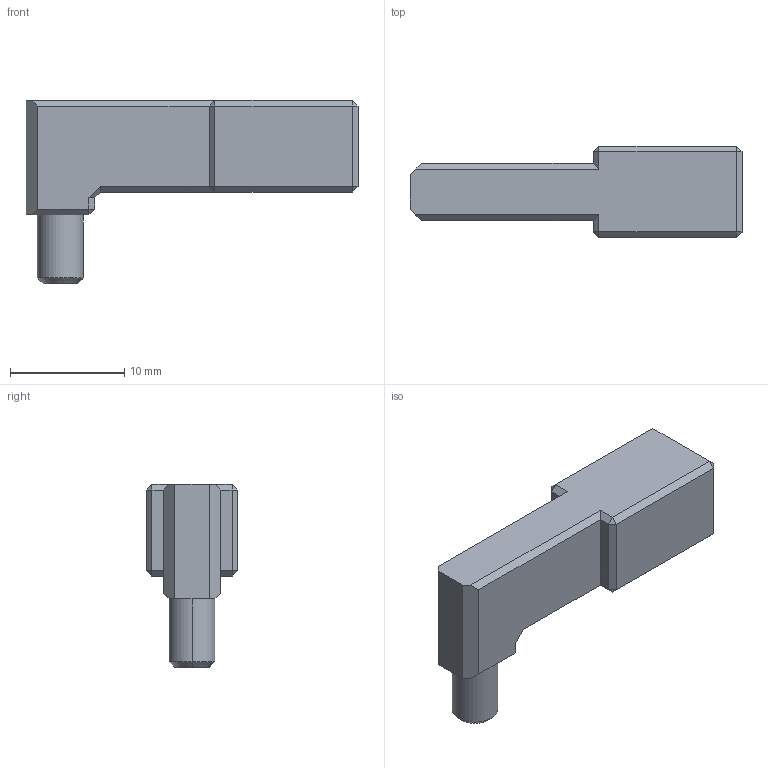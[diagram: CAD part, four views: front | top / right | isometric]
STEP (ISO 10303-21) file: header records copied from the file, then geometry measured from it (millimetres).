
FILE_DESCRIPTION (( 'STEP AP203' ), '1' );
FILE_NAME ('ºÞ¥Îªo¼LM4.STEP', '2009-12-08T00:57:53', ( 'cpc' ), ( '' ), 'SwSTEP 2.0', 'SolidWorks 2007', '' );
FILE_SCHEMA (( 'CONFIG_CONTROL_DESIGN' ));
Length unit declared in the file: millimetre
Products named in the file (1): 管用油嘴M4
Bounding box: 29 x 8 x 16 mm (x, y, z)
Volume: 1058.5 mm3; surface area: 1458.6 mm2
Topology: 1 solids, 1 shells, 72 faces, 157 edges, 86 vertices
Faces by surface type: plane 56, cylinder 10, cone 6
Entity records: 1958 total; most frequent: CARTESIAN_POINT 328, DIRECTION 323, ORIENTED_EDGE 314, EDGE_CURVE 157, VECTOR 129, LINE 129, AXIS2_PLACEMENT_3D 97, VERTEX_POINT 86
